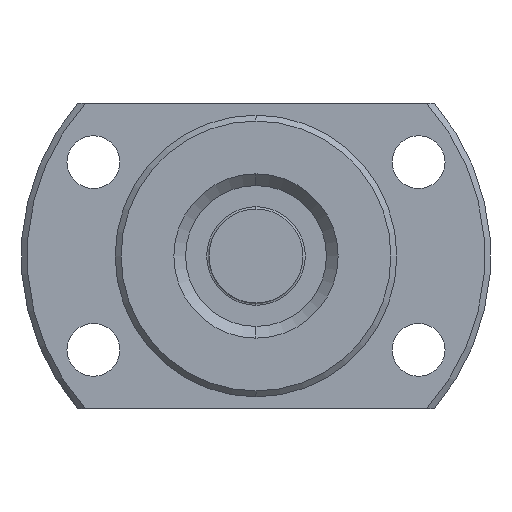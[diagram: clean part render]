
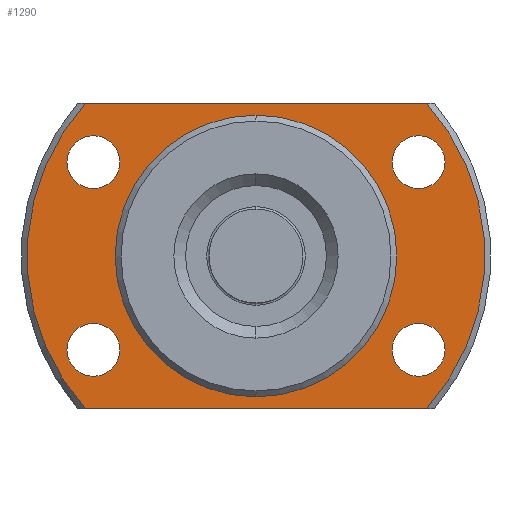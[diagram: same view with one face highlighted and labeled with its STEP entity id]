
A CAD part, left-side view. The second image highlights one B-rep face of the part: STEP entity #1290.
In plain terms, the highlighted planar face has unit normal (-1, 0, 0) as drawn and (1, 0, 0) by its records, which use the part's own axes.
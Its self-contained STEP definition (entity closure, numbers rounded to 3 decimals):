
#3 = AXIS2_PLACEMENT_3D ( 'NONE', #334, #682, #1270 ) ;
#8 = VERTEX_POINT ( 'NONE', #956 ) ;
#34 = CIRCLE ( 'NONE', #1171, 2.25 ) ;
#50 = ORIENTED_EDGE ( 'NONE', *, *, #792, .T. ) ;
#68 = EDGE_CURVE ( 'NONE', #1098, #383, #957, .T. ) ;
#75 = ORIENTED_EDGE ( 'NONE', *, *, #1537, .T. ) ;
#79 = CIRCLE ( 'NONE', #1239, 2.25 ) ;
#82 = VERTEX_POINT ( 'NONE', #837 ) ;
#86 = EDGE_LOOP ( 'NONE', ( #1231, #489, #642, #1133 ) ) ;
#90 = AXIS2_PLACEMENT_3D ( 'NONE', #674, #1920, #392 ) ;
#96 = ORIENTED_EDGE ( 'NONE', *, *, #1584, .F. ) ;
#98 = CARTESIAN_POINT ( 'NONE',  ( 8., 13.856, 8. ) ) ;
#105 = CIRCLE ( 'NONE', #1494, 2.25 ) ;
#120 = VERTEX_POINT ( 'NONE', #1465 ) ;
#151 = FACE_BOUND ( 'NONE', #804, .T. ) ;
#227 = CARTESIAN_POINT ( 'NONE',  ( 8., -13.856, 5.75 ) ) ;
#228 = DIRECTION ( 'NONE',  ( 1., 0., 0. ) ) ;
#245 = EDGE_CURVE ( 'NONE', #383, #1098, #34, .T. ) ;
#250 = CARTESIAN_POINT ( 'NONE',  ( 8., 0., 0. ) ) ;
#260 = CARTESIAN_POINT ( 'NONE',  ( 8., 13.856, 8. ) ) ;
#283 = CARTESIAN_POINT ( 'NONE',  ( 8., 0., 0. ) ) ;
#311 = CARTESIAN_POINT ( 'NONE',  ( 8., -13.856, -8. ) ) ;
#334 = CARTESIAN_POINT ( 'NONE',  ( 8., -13.856, -8. ) ) ;
#383 = VERTEX_POINT ( 'NONE', #227 ) ;
#384 = DIRECTION ( 'NONE',  ( 0., 0., -1. ) ) ;
#392 = DIRECTION ( 'NONE',  ( 0., 0., -1. ) ) ;
#431 = CARTESIAN_POINT ( 'NONE',  ( 8., 12., 13. ) ) ;
#435 = LINE ( 'NONE', #1501, #1940 ) ;
#440 = DIRECTION ( 'NONE',  ( 0., 0., -1. ) ) ;
#462 = CARTESIAN_POINT ( 'NONE',  ( 8., 0., 0. ) ) ;
#467 = ORIENTED_EDGE ( 'NONE', *, *, #1250, .T. ) ;
#472 = DIRECTION ( 'NONE',  ( 1., 0., 0. ) ) ;
#473 = CARTESIAN_POINT ( 'NONE',  ( 8., 14.534, 13. ) ) ;
#489 = ORIENTED_EDGE ( 'NONE', *, *, #1256, .T. ) ;
#553 = FACE_BOUND ( 'NONE', #1616, .T. ) ;
#558 = AXIS2_PLACEMENT_3D ( 'NONE', #311, #917, #1249 ) ;
#574 = LINE ( 'NONE', #431, #1297 ) ;
#576 = EDGE_CURVE ( 'NONE', #1367, #1661, #435, .T. ) ;
#602 = PLANE ( 'NONE',  #1262 ) ;
#622 = CIRCLE ( 'NONE', #751, 19.5 ) ;
#642 = ORIENTED_EDGE ( 'NONE', *, *, #1610, .T. ) ;
#650 = DIRECTION ( 'NONE',  ( -1., 0., 0. ) ) ;
#668 = DIRECTION ( 'NONE',  ( 0., 0., -1. ) ) ;
#674 = CARTESIAN_POINT ( 'NONE',  ( 8., -13.856, 8. ) ) ;
#682 = DIRECTION ( 'NONE',  ( -1., 0., 0. ) ) ;
#706 = CARTESIAN_POINT ( 'NONE',  ( 8., 0., 0. ) ) ;
#708 = FACE_OUTER_BOUND ( 'NONE', #86, .T. ) ;
#715 = DIRECTION ( 'NONE',  ( 0., 0., -1. ) ) ;
#734 = DIRECTION ( 'NONE',  ( -1., 0., 0. ) ) ;
#739 = DIRECTION ( 'NONE',  ( 0., 1., 0. ) ) ;
#751 = AXIS2_PLACEMENT_3D ( 'NONE', #283, #1045, #440 ) ;
#768 = CARTESIAN_POINT ( 'NONE',  ( 8., 12., 0. ) ) ;
#778 = DIRECTION ( 'NONE',  ( 1., 0., 0. ) ) ;
#792 = EDGE_CURVE ( 'NONE', #1608, #8, #79, .T. ) ;
#795 = AXIS2_PLACEMENT_3D ( 'NONE', #98, #1343, #715 ) ;
#804 = EDGE_LOOP ( 'NONE', ( #75, #1580 ) ) ;
#837 = CARTESIAN_POINT ( 'NONE',  ( 8., 0., 12. ) ) ;
#839 = DIRECTION ( 'NONE',  ( -1., 0., 0. ) ) ;
#876 = CIRCLE ( 'NONE', #3, 2.25 ) ;
#877 = VERTEX_POINT ( 'NONE', #473 ) ;
#904 = CARTESIAN_POINT ( 'NONE',  ( 8., -14.534, -13. ) ) ;
#917 = DIRECTION ( 'NONE',  ( -1., 0., 0. ) ) ;
#919 = EDGE_CURVE ( 'NONE', #1661, #877, #622, .T. ) ;
#929 = CARTESIAN_POINT ( 'NONE',  ( 8., -15.805, -6.875 ) ) ;
#940 = EDGE_LOOP ( 'NONE', ( #50, #467 ) ) ;
#956 = CARTESIAN_POINT ( 'NONE',  ( 8., 13.856, -10.25 ) ) ;
#957 = CIRCLE ( 'NONE', #90, 2.25 ) ;
#961 = AXIS2_PLACEMENT_3D ( 'NONE', #706, #1173, #1763 ) ;
#1028 = DIRECTION ( 'NONE',  ( 0., 0., -1. ) ) ;
#1039 = FACE_BOUND ( 'NONE', #1962, .T. ) ;
#1045 = DIRECTION ( 'NONE',  ( 1., 0., 0. ) ) ;
#1074 = EDGE_LOOP ( 'NONE', ( #96, #1459 ) ) ;
#1085 = DIRECTION ( 'NONE',  ( 0., 0., -1. ) ) ;
#1088 = CIRCLE ( 'NONE', #795, 2.25 ) ;
#1098 = VERTEX_POINT ( 'NONE', #1574 ) ;
#1100 = EDGE_CURVE ( 'NONE', #1611, #1792, #876, .T. ) ;
#1133 = ORIENTED_EDGE ( 'NONE', *, *, #576, .T. ) ;
#1145 = VERTEX_POINT ( 'NONE', #1742 ) ;
#1150 = ORIENTED_EDGE ( 'NONE', *, *, #1100, .T. ) ;
#1162 = DIRECTION ( 'NONE',  ( 0., 0., -1. ) ) ;
#1171 = AXIS2_PLACEMENT_3D ( 'NONE', #1719, #650, #668 ) ;
#1173 = DIRECTION ( 'NONE',  ( 1., 0., 0. ) ) ;
#1183 = DIRECTION ( 'NONE',  ( 0., -1., 0. ) ) ;
#1200 = DIRECTION ( 'NONE',  ( 0., 0., -1. ) ) ;
#1231 = ORIENTED_EDGE ( 'NONE', *, *, #919, .T. ) ;
#1233 = CIRCLE ( 'NONE', #1300, 12. ) ;
#1239 = AXIS2_PLACEMENT_3D ( 'NONE', #1601, #839, #384 ) ;
#1246 = VERTEX_POINT ( 'NONE', #1353 ) ;
#1249 = DIRECTION ( 'NONE',  ( 0., 0., -1. ) ) ;
#1250 = EDGE_CURVE ( 'NONE', #8, #1608, #105, .T. ) ;
#1256 = EDGE_CURVE ( 'NONE', #877, #120, #574, .T. ) ;
#1262 = AXIS2_PLACEMENT_3D ( 'NONE', #768, #472, #1998 ) ;
#1270 = DIRECTION ( 'NONE',  ( 0., 0., -1. ) ) ;
#1284 = CIRCLE ( 'NONE', #1733, 12. ) ;
#1290 = ADVANCED_FACE ( 'NONE', ( #708, #1321, #1941, #553, #1039, #151 ), #602, .T. ) ;
#1297 = VECTOR ( 'NONE', #1183, 1000. ) ;
#1300 = AXIS2_PLACEMENT_3D ( 'NONE', #462, #778, #1085 ) ;
#1321 = FACE_BOUND ( 'NONE', #1074, .T. ) ;
#1334 = CARTESIAN_POINT ( 'NONE',  ( 8., 13.856, -8. ) ) ;
#1343 = DIRECTION ( 'NONE',  ( -1., 0., 0. ) ) ;
#1346 = VERTEX_POINT ( 'NONE', #1674 ) ;
#1349 = EDGE_CURVE ( 'NONE', #82, #1145, #1233, .T. ) ;
#1353 = CARTESIAN_POINT ( 'NONE',  ( 8., 11.908, 9.125 ) ) ;
#1356 = EDGE_CURVE ( 'NONE', #1792, #1611, #1427, .T. ) ;
#1367 = VERTEX_POINT ( 'NONE', #904 ) ;
#1410 = ORIENTED_EDGE ( 'NONE', *, *, #68, .T. ) ;
#1427 = CIRCLE ( 'NONE', #558, 2.25 ) ;
#1459 = ORIENTED_EDGE ( 'NONE', *, *, #1349, .F. ) ;
#1465 = CARTESIAN_POINT ( 'NONE',  ( 8., -14.534, 13. ) ) ;
#1483 = CARTESIAN_POINT ( 'NONE',  ( 8., 14.534, -13. ) ) ;
#1494 = AXIS2_PLACEMENT_3D ( 'NONE', #1334, #1954, #1200 ) ;
#1501 = CARTESIAN_POINT ( 'NONE',  ( 8., 12., -13. ) ) ;
#1502 = CARTESIAN_POINT ( 'NONE',  ( 8., 13.856, -5.75 ) ) ;
#1537 = EDGE_CURVE ( 'NONE', #1246, #1346, #1997, .T. ) ;
#1543 = AXIS2_PLACEMENT_3D ( 'NONE', #260, #734, #1028 ) ;
#1574 = CARTESIAN_POINT ( 'NONE',  ( 8., -13.856, 10.25 ) ) ;
#1576 = CIRCLE ( 'NONE', #961, 19.5 ) ;
#1580 = ORIENTED_EDGE ( 'NONE', *, *, #1663, .T. ) ;
#1584 = EDGE_CURVE ( 'NONE', #1145, #82, #1284, .T. ) ;
#1601 = CARTESIAN_POINT ( 'NONE',  ( 8., 13.856, -8. ) ) ;
#1608 = VERTEX_POINT ( 'NONE', #1502 ) ;
#1610 = EDGE_CURVE ( 'NONE', #120, #1367, #1576, .T. ) ;
#1611 = VERTEX_POINT ( 'NONE', #1786 ) ;
#1616 = EDGE_LOOP ( 'NONE', ( #1695, #1410 ) ) ;
#1635 = ORIENTED_EDGE ( 'NONE', *, *, #1356, .T. ) ;
#1661 = VERTEX_POINT ( 'NONE', #1483 ) ;
#1663 = EDGE_CURVE ( 'NONE', #1346, #1246, #1088, .T. ) ;
#1674 = CARTESIAN_POINT ( 'NONE',  ( 8., 15.805, 6.875 ) ) ;
#1695 = ORIENTED_EDGE ( 'NONE', *, *, #245, .T. ) ;
#1719 = CARTESIAN_POINT ( 'NONE',  ( 8., -13.856, 8. ) ) ;
#1733 = AXIS2_PLACEMENT_3D ( 'NONE', #250, #228, #1162 ) ;
#1742 = CARTESIAN_POINT ( 'NONE',  ( 8., 0., -12. ) ) ;
#1763 = DIRECTION ( 'NONE',  ( 0., 0., -1. ) ) ;
#1786 = CARTESIAN_POINT ( 'NONE',  ( 8., -11.908, -9.125 ) ) ;
#1792 = VERTEX_POINT ( 'NONE', #929 ) ;
#1920 = DIRECTION ( 'NONE',  ( -1., 0., 0. ) ) ;
#1940 = VECTOR ( 'NONE', #739, 1000. ) ;
#1941 = FACE_BOUND ( 'NONE', #940, .T. ) ;
#1954 = DIRECTION ( 'NONE',  ( -1., 0., 0. ) ) ;
#1962 = EDGE_LOOP ( 'NONE', ( #1150, #1635 ) ) ;
#1997 = CIRCLE ( 'NONE', #1543, 2.25 ) ;
#1998 = DIRECTION ( 'NONE',  ( 0., 1., 0. ) ) ;
